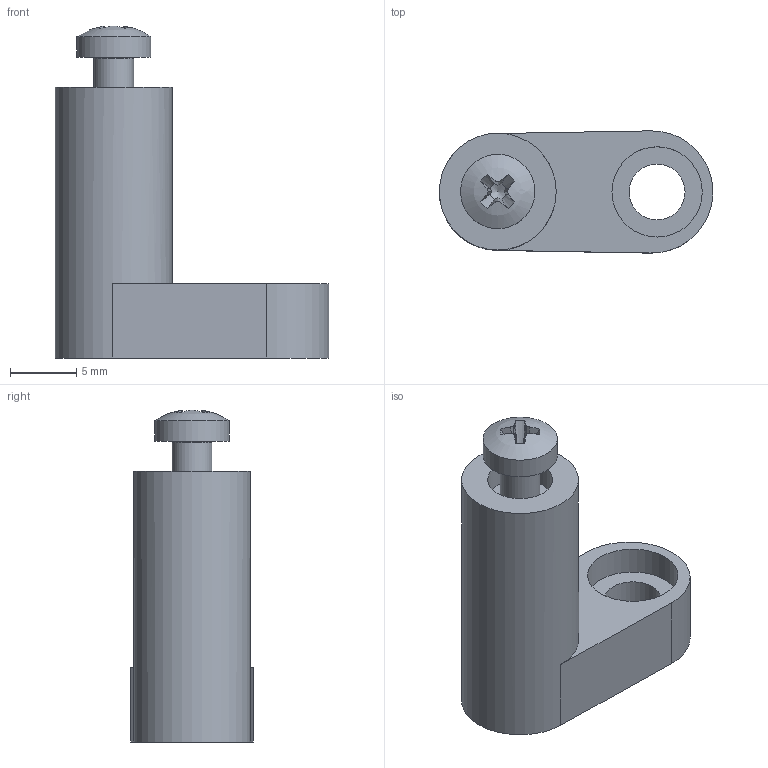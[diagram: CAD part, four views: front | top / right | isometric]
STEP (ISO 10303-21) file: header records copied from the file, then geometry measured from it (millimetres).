
FILE_DESCRIPTION(('FreeCAD Model'),'2;1');
FILE_NAME('Open CASCADE Shape Model','2023-02-07T00:57:26',(''),(''), 'Open CASCADE STEP processor 7.6','FreeCAD','Unknown');
FILE_SCHEMA(('AUTOMOTIVE_DESIGN { 1 0 10303 214 1 1 1 1 }'));
Length unit declared in the file: millimetre
Products named in the file (3): PCB_Feet; Foot plus Brass Insert; M3x8-Screw
Assembly tree (2 placements, depth 2):
  PCB_Feet
    Foot plus Brass Insert
    M3x8-Screw
Bounding box: 20.58 x 9.2 x 25 mm (x, y, z)
Volume: 1380.5 mm3; surface area: 1614.9 mm2
Topology: 2 solids, 2 shells, 46 faces, 108 edges, 70 vertices
Faces by surface type: plane 27, cylinder 10, cone 7, sphere 1, revolution 1
Full cylindrical faces by diameter (mm): 2.46 x1, 3 x1, 4.2 x1, 4.9 x3, 5.6 x1, 6.8 x1, 8.8 x1
Entity records: 1431 total; most frequent: DIRECTION 280, CARTESIAN_POINT 228, ORIENTED_EDGE 214, AXIS2_PLACEMENT_3D 124, EDGE_CURVE 107, VERTEX_POINT 70, FACE_BOUND 55, EDGE_LOOP 55
